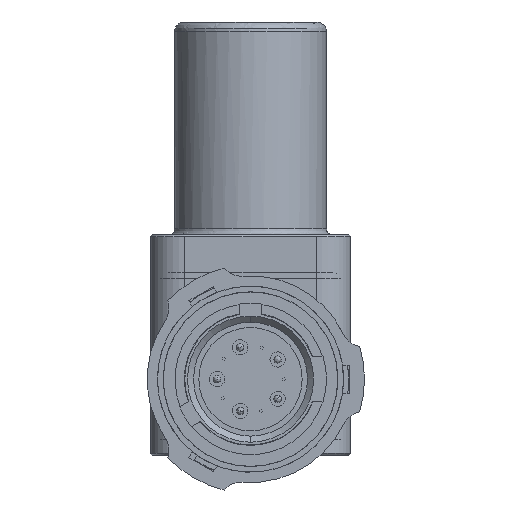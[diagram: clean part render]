
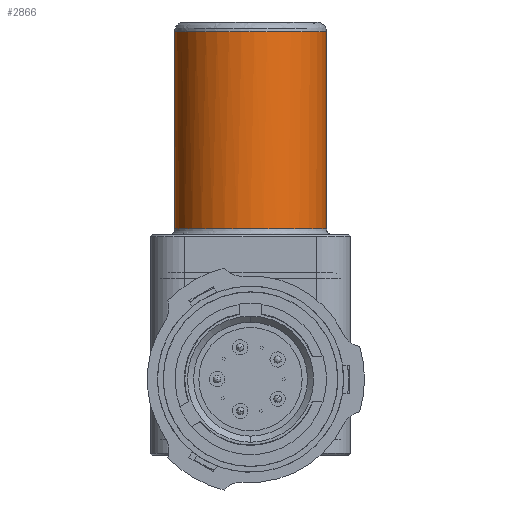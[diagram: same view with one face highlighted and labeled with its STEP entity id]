
A CAD part, front view. The second image highlights one B-rep face of the part: STEP entity #2866.
In plain terms, the highlighted cylindrical face has radius 5 mm (diameter 10 mm), a full revolution.
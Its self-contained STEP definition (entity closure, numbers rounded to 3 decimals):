
#401=B_SPLINE_CURVE_WITH_KNOTS('',3,(#7997,#7998,#7999,#8000,#8001,#8002,
#8003,#8004,#8005,#8006),.UNSPECIFIED.,.F.,.F.,(4,2,2,2,4),(0.,0.25,0.5,
0.75,1.),.UNSPECIFIED.);
#2474=CYLINDRICAL_SURFACE('',#6025,5.);
#2659=FACE_BOUND('',#3406,.T.);
#2660=FACE_BOUND('',#3407,.T.);
#2866=ADVANCED_FACE('',(#2659,#2660),#2474,.T.);
#3406=EDGE_LOOP('',(#3854));
#3407=EDGE_LOOP('',(#3855,#3856));
#3854=ORIENTED_EDGE('',*,*,#5233,.T.);
#3855=ORIENTED_EDGE('',*,*,#5202,.T.);
#3856=ORIENTED_EDGE('',*,*,#5201,.T.);
#4800=VERTEX_POINT('',#7995);
#4801=VERTEX_POINT('',#7996);
#4830=VERTEX_POINT('',#8164);
#5201=EDGE_CURVE('',#4800,#4801,#5714,.T.);
#5202=EDGE_CURVE('',#4801,#4800,#401,.T.);
#5233=EDGE_CURVE('',#4830,#4830,#5720,.T.);
#5714=CIRCLE('',#6015,5.);
#5720=CIRCLE('',#6024,5.);
#6015=AXIS2_PLACEMENT_3D('',#7994,#6607,#6608);
#6024=AXIS2_PLACEMENT_3D('',#8163,#6631,#6632);
#6025=AXIS2_PLACEMENT_3D('',#8165,#6633,#6634);
#6607=DIRECTION('',(0.,0.,-1.));
#6608=DIRECTION('',(-1.,0.,0.));
#6631=DIRECTION('',(0.,0.,1.));
#6632=DIRECTION('',(1.,0.,0.));
#6633=DIRECTION('',(0.,0.,-1.));
#6634=DIRECTION('',(-1.,0.,0.));
#7994=CARTESIAN_POINT('',(9.969,0.,12.738));
#7995=CARTESIAN_POINT('',(4.969,0.,12.738));
#7996=CARTESIAN_POINT('',(14.969,0.,12.738));
#7997=CARTESIAN_POINT('',(14.969,0.,12.738));
#7998=CARTESIAN_POINT('',(14.969,-1.309,12.738));
#7999=CARTESIAN_POINT('',(14.431,-2.61,12.738));
#8000=CARTESIAN_POINT('',(12.579,-4.461,12.738));
#8001=CARTESIAN_POINT('',(11.278,-5.,12.738));
#8002=CARTESIAN_POINT('',(8.66,-5.,12.738));
#8003=CARTESIAN_POINT('',(7.359,-4.461,12.738));
#8004=CARTESIAN_POINT('',(5.508,-2.61,12.738));
#8005=CARTESIAN_POINT('',(4.969,-1.309,12.738));
#8006=CARTESIAN_POINT('',(4.969,0.,12.738));
#8163=CARTESIAN_POINT('',(9.969,0.,-0.246));
#8164=CARTESIAN_POINT('',(14.969,0.,-0.246));
#8165=CARTESIAN_POINT('',(9.969,0.,13.373));
